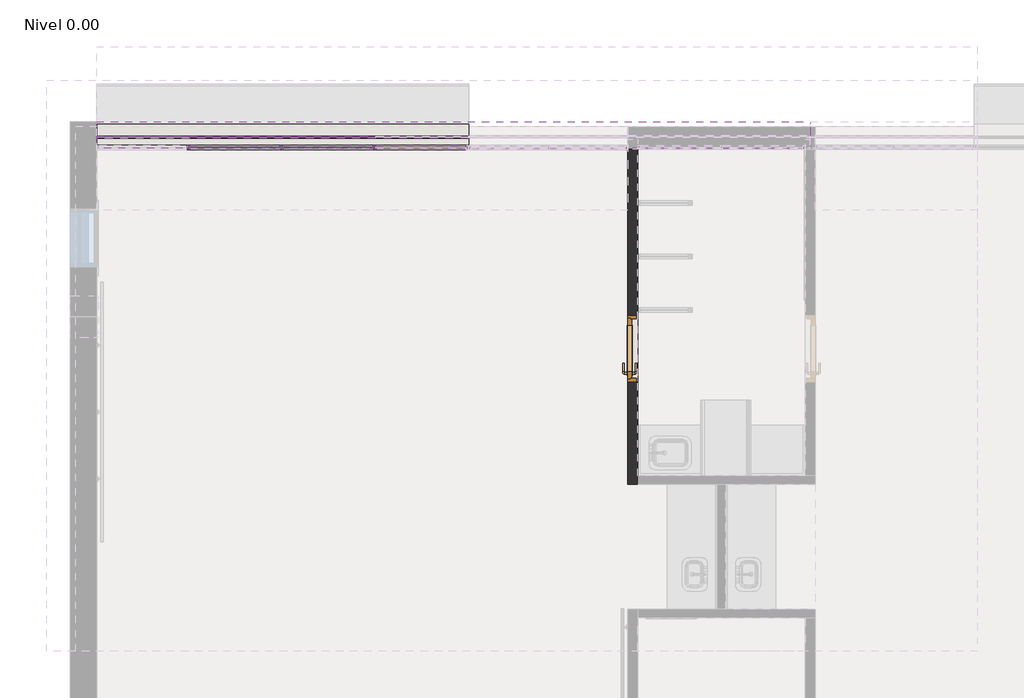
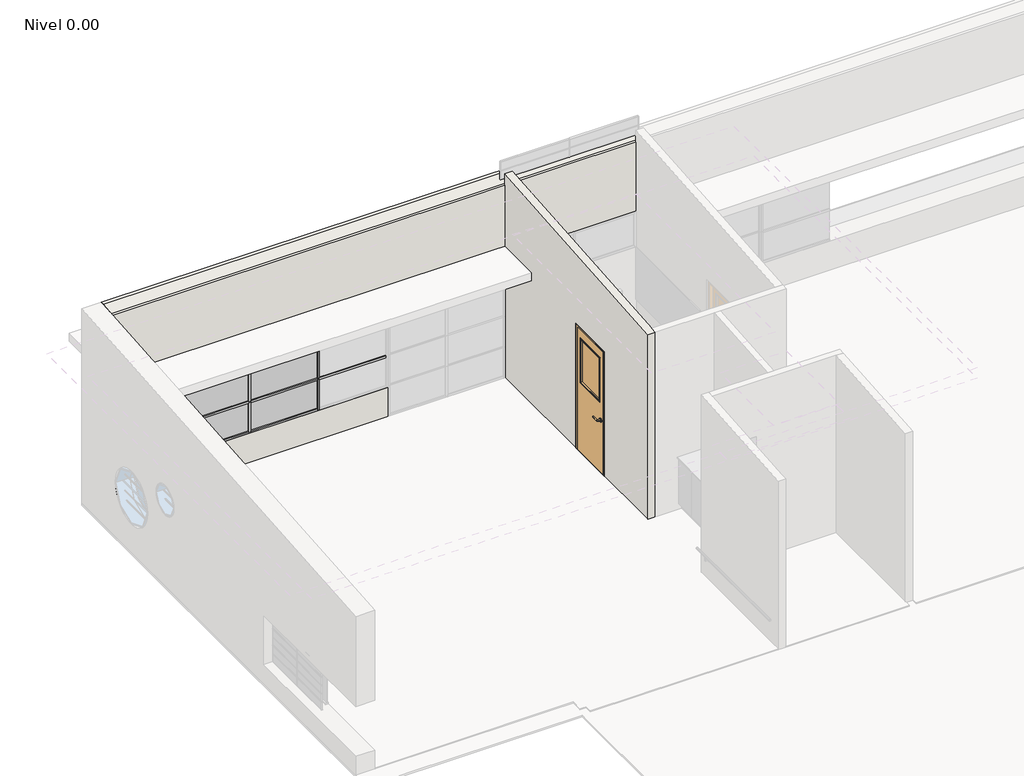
# One storey, part 13 of 27: 97 members, 28 plates, 3 walls, 1 door.
"""IFC4 building model written with IfcOpenShell, lengths in millimetres."""

from ifc_helpers import new_model, si_unit, frame, origin, place, context, project, spatial, polyline, outline, extrude, faceted_brep, transform, mapped, element, save
from components import puerta_c_01_c01_800x2100mm_f7d64b3f, circular_mullion_aad16848, circular_mullion_0549192e, l_corner_mullion_bb2ea94d, l_corner_mullion_decce2e3, rectangular_mullion_bbf09746, rectangular_mullion_c518a510, rectangular_mullion_22e3ac1e, rectangular_mullion_d0a98ee2, rectangular_mullion_bc77bd75, system_panel_6bc11d80, system_panel_4f7478dd, system_panel_glazed_86de827a, system_panel_glazed_6ff0c913

model = new_model("IFC4")

# Units and contexts
model_context = context("Model", 3, world=origin())
ifc_project = project(units=[si_unit("LENGTHUNIT", "METRE", prefix="MILLI")], contexts=[model_context])

# Site, building, storey
site = spatial("IfcSite", under=ifc_project)
building = spatial("IfcBuilding", under=site)
storey = spatial("IfcBuildingStorey", under=building, Name="Nivel 0.00", Elevation=0.0)

# Door
placement = place(None, origin())
puerta_c_01_c01_800x2100mm_shape = puerta_c_01_c01_800x2100mm_f7d64b3f(model_context)
element("IfcDoor", 1, ObjectType="PUERTA_C-01 : C01_800X2100mm", at=placement, inside=storey, context=model_context, shape_type="MappedRepresentation", body=[
    mapped(puerta_c_01_c01_800x2100mm_shape, transform((-9389.2191805, 4429.1682907, 0.0), x_axis=(0.0, 1.0, 0.0), y_axis=(-1.0, 0.0, 0.0), z_axis=(0.0, 0.0, 1.0))),
])

# Members
circular_mullion_shape = circular_mullion_aad16848(model_context)
element("IfcMember", 2, ObjectType="Circular Mullion : ARQ_HERR_16mm", at=placement, inside=storey, context=model_context, shape_type="MappedRepresentation", body=[
    mapped(circular_mullion_shape, transform((-12467.8377559, 6959.43912, 645.4545455), x_axis=(0.0, 0.0, 1.0), y_axis=(0.0, 1.0, 0.0), z_axis=(-1.0, 0.0, 0.0))),
])
element("IfcMember", 3, ObjectType="Circular Mullion : ARQ_HERR_16mm", at=placement, inside=storey, context=model_context, shape_type="MappedRepresentation", body=[
    mapped(circular_mullion_shape, transform((-13580.5250105, 6959.43912, 645.4545455), x_axis=(0.0, 0.0, 1.0), y_axis=(0.0, 1.0, 0.0), z_axis=(-1.0, 0.0, 0.0))),
])
element("IfcMember", 4, ObjectType="Circular Mullion : ARQ_HERR_16mm", at=placement, inside=storey, context=model_context, shape_type="MappedRepresentation", body=[
    mapped(circular_mullion_shape, transform((-14693.2122652, 6959.43912, 645.4545455), x_axis=(0.0, 0.0, 1.0), y_axis=(0.0, 1.0, 0.0), z_axis=(-1.0, 0.0, 0.0))),
])
element("IfcMember", 5, ObjectType="Circular Mullion : ARQ_HERR_16mm", at=placement, inside=storey, context=model_context, shape_type="MappedRepresentation", body=[
    mapped(circular_mullion_shape, transform((-12467.8377559, 6959.43912, 790.9090909), x_axis=(0.0, 0.0, 1.0), y_axis=(0.0, 1.0, 0.0), z_axis=(-1.0, 0.0, 0.0))),
])
element("IfcMember", 6, ObjectType="Circular Mullion : ARQ_HERR_16mm", at=placement, inside=storey, context=model_context, shape_type="MappedRepresentation", body=[
    mapped(circular_mullion_shape, transform((-13580.5250105, 6959.43912, 790.9090909), x_axis=(0.0, 0.0, 1.0), y_axis=(0.0, 1.0, 0.0), z_axis=(-1.0, 0.0, 0.0))),
])
element("IfcMember", 7, ObjectType="Circular Mullion : ARQ_HERR_16mm", at=placement, inside=storey, context=model_context, shape_type="MappedRepresentation", body=[
    mapped(circular_mullion_shape, transform((-14693.2122652, 6959.43912, 790.9090909), x_axis=(0.0, 0.0, 1.0), y_axis=(0.0, 1.0, 0.0), z_axis=(-1.0, 0.0, 0.0))),
])
element("IfcMember", 8, ObjectType="Circular Mullion : ARQ_HERR_16mm", at=placement, inside=storey, context=model_context, shape_type="MappedRepresentation", body=[
    mapped(circular_mullion_shape, transform((-12467.8377559, 6959.43912, 936.3636364), x_axis=(0.0, 0.0, 1.0), y_axis=(0.0, 1.0, 0.0), z_axis=(-1.0, 0.0, 0.0))),
])
element("IfcMember", 9, ObjectType="Circular Mullion : ARQ_HERR_16mm", at=placement, inside=storey, context=model_context, shape_type="MappedRepresentation", body=[
    mapped(circular_mullion_shape, transform((-13580.5250105, 6959.43912, 936.3636364), x_axis=(0.0, 0.0, 1.0), y_axis=(0.0, 1.0, 0.0), z_axis=(-1.0, 0.0, 0.0))),
])
element("IfcMember", 10, ObjectType="Circular Mullion : ARQ_HERR_16mm", at=placement, inside=storey, context=model_context, shape_type="MappedRepresentation", body=[
    mapped(circular_mullion_shape, transform((-14693.2122652, 6959.43912, 936.3636364), x_axis=(0.0, 0.0, 1.0), y_axis=(0.0, 1.0, 0.0), z_axis=(-1.0, 0.0, 0.0))),
])
element("IfcMember", 11, ObjectType="Circular Mullion : ARQ_HERR_16mm", at=placement, inside=storey, context=model_context, shape_type="MappedRepresentation", body=[
    mapped(circular_mullion_shape, transform((-12467.8377559, 6959.43912, 1081.8181818), x_axis=(0.0, 0.0, 1.0), y_axis=(0.0, 1.0, 0.0), z_axis=(-1.0, 0.0, 0.0))),
])
element("IfcMember", 12, ObjectType="Circular Mullion : ARQ_HERR_16mm", at=placement, inside=storey, context=model_context, shape_type="MappedRepresentation", body=[
    mapped(circular_mullion_shape, transform((-13580.5250105, 6959.43912, 1081.8181818), x_axis=(0.0, 0.0, 1.0), y_axis=(0.0, 1.0, 0.0), z_axis=(-1.0, 0.0, 0.0))),
])
element("IfcMember", 13, ObjectType="Circular Mullion : ARQ_HERR_16mm", at=placement, inside=storey, context=model_context, shape_type="MappedRepresentation", body=[
    mapped(circular_mullion_shape, transform((-14693.2122652, 6959.43912, 1081.8181818), x_axis=(0.0, 0.0, 1.0), y_axis=(0.0, 1.0, 0.0), z_axis=(-1.0, 0.0, 0.0))),
])
element("IfcMember", 14, ObjectType="Circular Mullion : ARQ_HERR_16mm", at=placement, inside=storey, context=model_context, shape_type="MappedRepresentation", body=[
    mapped(circular_mullion_shape, transform((-12467.8377559, 6959.43912, 1227.2727273), x_axis=(0.0, 0.0, 1.0), y_axis=(0.0, 1.0, 0.0), z_axis=(-1.0, 0.0, 0.0))),
])
element("IfcMember", 15, ObjectType="Circular Mullion : ARQ_HERR_16mm", at=placement, inside=storey, context=model_context, shape_type="MappedRepresentation", body=[
    mapped(circular_mullion_shape, transform((-13580.5250105, 6959.43912, 1227.2727273), x_axis=(0.0, 0.0, 1.0), y_axis=(0.0, 1.0, 0.0), z_axis=(-1.0, 0.0, 0.0))),
])
element("IfcMember", 16, ObjectType="Circular Mullion : ARQ_HERR_16mm", at=placement, inside=storey, context=model_context, shape_type="MappedRepresentation", body=[
    mapped(circular_mullion_shape, transform((-14693.2122652, 6959.43912, 1227.2727273), x_axis=(0.0, 0.0, 1.0), y_axis=(0.0, 1.0, 0.0), z_axis=(-1.0, 0.0, 0.0))),
])
element("IfcMember", 17, ObjectType="Circular Mullion : ARQ_HERR_16mm", at=placement, inside=storey, context=model_context, shape_type="MappedRepresentation", body=[
    mapped(circular_mullion_shape, transform((-12467.8377559, 6959.43912, 1372.7272727), x_axis=(0.0, 0.0, 1.0), y_axis=(0.0, 1.0, 0.0), z_axis=(-1.0, 0.0, 0.0))),
])
element("IfcMember", 18, ObjectType="Circular Mullion : ARQ_HERR_16mm", at=placement, inside=storey, context=model_context, shape_type="MappedRepresentation", body=[
    mapped(circular_mullion_shape, transform((-13580.5250105, 6959.43912, 1372.7272727), x_axis=(0.0, 0.0, 1.0), y_axis=(0.0, 1.0, 0.0), z_axis=(-1.0, 0.0, 0.0))),
])
element("IfcMember", 19, ObjectType="Circular Mullion : ARQ_HERR_16mm", at=placement, inside=storey, context=model_context, shape_type="MappedRepresentation", body=[
    mapped(circular_mullion_shape, transform((-14693.2122652, 6959.43912, 1372.7272727), x_axis=(0.0, 0.0, 1.0), y_axis=(0.0, 1.0, 0.0), z_axis=(-1.0, 0.0, 0.0))),
])
element("IfcMember", 20, ObjectType="Circular Mullion : ARQ_HERR_16mm", at=placement, inside=storey, context=model_context, shape_type="MappedRepresentation", body=[
    mapped(circular_mullion_shape, transform((-12467.8377559, 6959.43912, 1518.1818182), x_axis=(0.0, 0.0, 1.0), y_axis=(0.0, 1.0, 0.0), z_axis=(-1.0, 0.0, 0.0))),
])
element("IfcMember", 21, ObjectType="Circular Mullion : ARQ_HERR_16mm", at=placement, inside=storey, context=model_context, shape_type="MappedRepresentation", body=[
    mapped(circular_mullion_shape, transform((-13580.5250105, 6959.43912, 1518.1818182), x_axis=(0.0, 0.0, 1.0), y_axis=(0.0, 1.0, 0.0), z_axis=(-1.0, 0.0, 0.0))),
])
element("IfcMember", 22, ObjectType="Circular Mullion : ARQ_HERR_16mm", at=placement, inside=storey, context=model_context, shape_type="MappedRepresentation", body=[
    mapped(circular_mullion_shape, transform((-14693.2122652, 6959.43912, 1518.1818182), x_axis=(0.0, 0.0, 1.0), y_axis=(0.0, 1.0, 0.0), z_axis=(-1.0, 0.0, 0.0))),
])
element("IfcMember", 23, ObjectType="Circular Mullion : ARQ_HERR_16mm", at=placement, inside=storey, context=model_context, shape_type="MappedRepresentation", body=[
    mapped(circular_mullion_shape, transform((-12467.8377559, 6959.43912, 1663.6363636), x_axis=(0.0, 0.0, 1.0), y_axis=(0.0, 1.0, 0.0), z_axis=(-1.0, 0.0, 0.0))),
])
element("IfcMember", 24, ObjectType="Circular Mullion : ARQ_HERR_16mm", at=placement, inside=storey, context=model_context, shape_type="MappedRepresentation", body=[
    mapped(circular_mullion_shape, transform((-13580.5250105, 6959.43912, 1663.6363636), x_axis=(0.0, 0.0, 1.0), y_axis=(0.0, 1.0, 0.0), z_axis=(-1.0, 0.0, 0.0))),
])
element("IfcMember", 25, ObjectType="Circular Mullion : ARQ_HERR_16mm", at=placement, inside=storey, context=model_context, shape_type="MappedRepresentation", body=[
    mapped(circular_mullion_shape, transform((-14693.2122652, 6959.43912, 1663.6363636), x_axis=(0.0, 0.0, 1.0), y_axis=(0.0, 1.0, 0.0), z_axis=(-1.0, 0.0, 0.0))),
])
element("IfcMember", 26, ObjectType="Circular Mullion : ARQ_HERR_16mm", at=placement, inside=storey, context=model_context, shape_type="MappedRepresentation", body=[
    mapped(circular_mullion_shape, transform((-12467.8377559, 6959.43912, 1809.0909091), x_axis=(0.0, 0.0, 1.0), y_axis=(0.0, 1.0, 0.0), z_axis=(-1.0, 0.0, 0.0))),
])
element("IfcMember", 27, ObjectType="Circular Mullion : ARQ_HERR_16mm", at=placement, inside=storey, context=model_context, shape_type="MappedRepresentation", body=[
    mapped(circular_mullion_shape, transform((-13580.5250105, 6959.43912, 1809.0909091), x_axis=(0.0, 0.0, 1.0), y_axis=(0.0, 1.0, 0.0), z_axis=(-1.0, 0.0, 0.0))),
])
element("IfcMember", 28, ObjectType="Circular Mullion : ARQ_HERR_16mm", at=placement, inside=storey, context=model_context, shape_type="MappedRepresentation", body=[
    mapped(circular_mullion_shape, transform((-14693.2122652, 6959.43912, 1809.0909091), x_axis=(0.0, 0.0, 1.0), y_axis=(0.0, 1.0, 0.0), z_axis=(-1.0, 0.0, 0.0))),
])
element("IfcMember", 29, ObjectType="Circular Mullion : ARQ_HERR_16mm", at=placement, inside=storey, context=model_context, shape_type="MappedRepresentation", body=[
    mapped(circular_mullion_shape, transform((-12467.8377559, 6959.43912, 1954.5454545), x_axis=(0.0, 0.0, 1.0), y_axis=(0.0, 1.0, 0.0), z_axis=(-1.0, 0.0, 0.0))),
])
element("IfcMember", 30, ObjectType="Circular Mullion : ARQ_HERR_16mm", at=placement, inside=storey, context=model_context, shape_type="MappedRepresentation", body=[
    mapped(circular_mullion_shape, transform((-13580.5250105, 6959.43912, 1954.5454545), x_axis=(0.0, 0.0, 1.0), y_axis=(0.0, 1.0, 0.0), z_axis=(-1.0, 0.0, 0.0))),
])
element("IfcMember", 31, ObjectType="Circular Mullion : ARQ_HERR_16mm", at=placement, inside=storey, context=model_context, shape_type="MappedRepresentation", body=[
    mapped(circular_mullion_shape, transform((-14693.2122652, 6959.43912, 1954.5454545), x_axis=(0.0, 0.0, 1.0), y_axis=(0.0, 1.0, 0.0), z_axis=(-1.0, 0.0, 0.0))),
])
circular_mullion_2_shape = circular_mullion_0549192e(model_context)
element("IfcMember", 32, ObjectType="Circular Mullion : ARQ_HERR_16mm", at=placement, inside=storey, context=model_context, shape_type="MappedRepresentation", body=[
    mapped(circular_mullion_2_shape, transform((-15799.8995201, 6959.43912, 1081.8181818), x_axis=(0.0, 0.0, 1.0), y_axis=(0.0, 1.0, 0.0), z_axis=(-1.0, 0.0, 0.0))),
])
element("IfcMember", 33, ObjectType="Circular Mullion : ARQ_HERR_16mm", at=placement, inside=storey, context=model_context, shape_type="MappedRepresentation", body=[
    mapped(circular_mullion_2_shape, transform((-15799.8995201, 6959.43912, 1227.2727273), x_axis=(0.0, 0.0, 1.0), y_axis=(0.0, 1.0, 0.0), z_axis=(-1.0, 0.0, 0.0))),
])
element("IfcMember", 34, ObjectType="Circular Mullion : ARQ_HERR_16mm", at=placement, inside=storey, context=model_context, shape_type="MappedRepresentation", body=[
    mapped(circular_mullion_2_shape, transform((-15799.8995201, 6959.43912, 1372.7272727), x_axis=(0.0, 0.0, 1.0), y_axis=(0.0, 1.0, 0.0), z_axis=(-1.0, 0.0, 0.0))),
])
element("IfcMember", 35, ObjectType="Circular Mullion : ARQ_HERR_16mm", at=placement, inside=storey, context=model_context, shape_type="MappedRepresentation", body=[
    mapped(circular_mullion_2_shape, transform((-15799.8995201, 6959.43912, 1518.1818182), x_axis=(0.0, 0.0, 1.0), y_axis=(0.0, 1.0, 0.0), z_axis=(-1.0, 0.0, 0.0))),
])
element("IfcMember", 36, ObjectType="Circular Mullion : ARQ_HERR_16mm", at=placement, inside=storey, context=model_context, shape_type="MappedRepresentation", body=[
    mapped(circular_mullion_2_shape, transform((-15799.8995201, 6959.43912, 1663.6363636), x_axis=(0.0, 0.0, 1.0), y_axis=(0.0, 1.0, 0.0), z_axis=(-1.0, 0.0, 0.0))),
])
element("IfcMember", 37, ObjectType="Circular Mullion : ARQ_HERR_16mm", at=placement, inside=storey, context=model_context, shape_type="MappedRepresentation", body=[
    mapped(circular_mullion_2_shape, transform((-15799.8995201, 6959.43912, 1809.0909091), x_axis=(0.0, 0.0, 1.0), y_axis=(0.0, 1.0, 0.0), z_axis=(-1.0, 0.0, 0.0))),
])
element("IfcMember", 38, ObjectType="Circular Mullion : ARQ_HERR_16mm", at=placement, inside=storey, context=model_context, shape_type="MappedRepresentation", body=[
    mapped(circular_mullion_2_shape, transform((-15799.8995201, 6959.43912, 1954.5454545), x_axis=(0.0, 0.0, 1.0), y_axis=(0.0, 1.0, 0.0), z_axis=(-1.0, 0.0, 0.0))),
])
l_corner_mullion_shape = l_corner_mullion_bb2ea94d(model_context)
element("IfcMember", 39, ObjectType="L Corner Mullion : ARQ_HERR_15X6mm", at=placement, inside=storey, context=model_context, shape_type="MappedRepresentation", body=[
    mapped(l_corner_mullion_shape, transform((-12467.8377559, 6959.43912, 2100.0), x_axis=(0.0, 0.0, 1.0), y_axis=(0.0, 1.0, 0.0), z_axis=(-1.0, 0.0, 0.0))),
])
element("IfcMember", 40, ObjectType="L Corner Mullion : ARQ_HERR_15X6mm", at=placement, inside=storey, context=model_context, shape_type="MappedRepresentation", body=[
    mapped(l_corner_mullion_shape, transform((-13580.5250105, 6959.43912, 2100.0), x_axis=(0.0, 0.0, 1.0), y_axis=(0.0, 1.0, 0.0), z_axis=(-1.0, 0.0, 0.0))),
])
element("IfcMember", 41, ObjectType="L Corner Mullion : ARQ_HERR_15X6mm", at=placement, inside=storey, context=model_context, shape_type="MappedRepresentation", body=[
    mapped(l_corner_mullion_shape, transform((-14693.2122652, 6959.43912, 2100.0), x_axis=(0.0, 0.0, 1.0), y_axis=(0.0, 1.0, 0.0), z_axis=(-1.0, 0.0, 0.0))),
])
element("IfcMember", 42, ObjectType="L Corner Mullion : ARQ_HERR_15X6mm", at=placement, inside=storey, context=model_context, shape_type="MappedRepresentation", body=[
    mapped(l_corner_mullion_shape, transform((-12473.8377559, 6959.43912, 500.0), x_axis=(0.0, 0.0, -1.0), y_axis=(0.0, 1.0, 0.0), z_axis=(1.0, 0.0, 0.0))),
])
element("IfcMember", 43, ObjectType="L Corner Mullion : ARQ_HERR_15X6mm", at=placement, inside=storey, context=model_context, shape_type="MappedRepresentation", body=[
    mapped(l_corner_mullion_shape, transform((-13586.5250105, 6959.43912, 500.0), x_axis=(0.0, 0.0, -1.0), y_axis=(0.0, 1.0, 0.0), z_axis=(1.0, 0.0, 0.0))),
])
l_corner_mullion_2_shape = l_corner_mullion_decce2e3(model_context)
element("IfcMember", 44, ObjectType="L Corner Mullion : ARQ_HERR_15X6mm", at=placement, inside=storey, context=model_context, shape_type="MappedRepresentation", body=[
    mapped(l_corner_mullion_2_shape, transform((-14699.2122652, 6959.43912, 500.0), x_axis=(0.0, 0.0, -1.0), y_axis=(0.0, 1.0, 0.0), z_axis=(1.0, 0.0, 0.0))),
])
rectangular_mullion_shape = rectangular_mullion_bbf09746(model_context)
element("IfcMember", 45, ObjectType="Rectangular Mullion : ARQ_TV_MULL_50x30mm", at=placement, inside=storey, context=model_context, shape_type="MappedRepresentation", body=[
    mapped(rectangular_mullion_shape, transform((-12482.8377559, 6833.6242925, 500.0), x_axis=(-1.0, 0.0, 0.0), y_axis=(0.0, 1.0, 0.0), z_axis=(0.0, 0.0, -1.0))),
])
element("IfcMember", 46, ObjectType="Rectangular Mullion : ARQ_TV_MULL_50x30mm", at=placement, inside=storey, context=model_context, shape_type="MappedRepresentation", body=[
    mapped(rectangular_mullion_shape, transform((-13595.5250105, 6833.6242925, 500.0), x_axis=(-1.0, 0.0, 0.0), y_axis=(0.0, 1.0, 0.0), z_axis=(0.0, 0.0, -1.0))),
])
element("IfcMember", 47, ObjectType="Rectangular Mullion : ARQ_TV_MULL_50x30mm", at=placement, inside=storey, context=model_context, shape_type="MappedRepresentation", body=[
    mapped(rectangular_mullion_shape, transform((-14708.2122652, 6833.6242925, 500.0), x_axis=(-1.0, 0.0, 0.0), y_axis=(0.0, 1.0, 0.0), z_axis=(0.0, 0.0, -1.0))),
])
element("IfcMember", 48, ObjectType="Rectangular Mullion : ARQ_TV_MULL_50x30mm", at=placement, inside=storey, context=model_context, shape_type="MappedRepresentation", body=[
    mapped(rectangular_mullion_shape, transform((-12482.8377559, 6833.6242925, 1033.3333333), x_axis=(-1.0, 0.0, 0.0), y_axis=(0.0, 1.0, 0.0), z_axis=(0.0, 0.0, -1.0))),
])
element("IfcMember", 49, ObjectType="Rectangular Mullion : ARQ_TV_MULL_50x30mm", at=placement, inside=storey, context=model_context, shape_type="MappedRepresentation", body=[
    mapped(rectangular_mullion_shape, transform((-13595.5250105, 6833.6242925, 1033.3333333), x_axis=(-1.0, 0.0, 0.0), y_axis=(0.0, 1.0, 0.0), z_axis=(0.0, 0.0, -1.0))),
])
element("IfcMember", 50, ObjectType="Rectangular Mullion : ARQ_TV_MULL_50x30mm", at=placement, inside=storey, context=model_context, shape_type="MappedRepresentation", body=[
    mapped(rectangular_mullion_shape, transform((-14708.2122652, 6833.6242925, 1033.3333333), x_axis=(-1.0, 0.0, 0.0), y_axis=(0.0, 1.0, 0.0), z_axis=(0.0, 0.0, -1.0))),
])
element("IfcMember", 51, ObjectType="Rectangular Mullion : ARQ_TV_MULL_50x30mm", at=placement, inside=storey, context=model_context, shape_type="MappedRepresentation", body=[
    mapped(rectangular_mullion_shape, transform((-12482.8377559, 6833.6242925, 1566.6666667), x_axis=(-1.0, 0.0, 0.0), y_axis=(0.0, 1.0, 0.0), z_axis=(0.0, 0.0, -1.0))),
])
element("IfcMember", 52, ObjectType="Rectangular Mullion : ARQ_TV_MULL_50x30mm", at=placement, inside=storey, context=model_context, shape_type="MappedRepresentation", body=[
    mapped(rectangular_mullion_shape, transform((-13595.5250105, 6833.6242925, 1566.6666667), x_axis=(-1.0, 0.0, 0.0), y_axis=(0.0, 1.0, 0.0), z_axis=(0.0, 0.0, -1.0))),
])
element("IfcMember", 53, ObjectType="Rectangular Mullion : ARQ_TV_MULL_50x30mm", at=placement, inside=storey, context=model_context, shape_type="MappedRepresentation", body=[
    mapped(rectangular_mullion_shape, transform((-14708.2122652, 6833.6242925, 1566.6666667), x_axis=(-1.0, 0.0, 0.0), y_axis=(0.0, 1.0, 0.0), z_axis=(0.0, 0.0, -1.0))),
])
rectangular_mullion_2_shape = rectangular_mullion_c518a510(model_context)
element("IfcMember", 54, ObjectType="Rectangular Mullion : ARQ_TV_MULL_50x30mm", at=placement, inside=storey, context=model_context, shape_type="MappedRepresentation", body=[
    mapped(rectangular_mullion_2_shape, transform((-12467.8377559, 6833.6242925, 2100.0), x_axis=(0.0, 0.0, 1.0), y_axis=(0.0, 1.0, 0.0), z_axis=(-1.0, 0.0, 0.0))),
])
element("IfcMember", 55, ObjectType="Rectangular Mullion : ARQ_TV_MULL_50x30mm", at=placement, inside=storey, context=model_context, shape_type="MappedRepresentation", body=[
    mapped(rectangular_mullion_2_shape, transform((-13580.5250105, 6833.6242925, 2100.0), x_axis=(0.0, 0.0, 1.0), y_axis=(0.0, 1.0, 0.0), z_axis=(-1.0, 0.0, 0.0))),
])
element("IfcMember", 56, ObjectType="Rectangular Mullion : ARQ_TV_MULL_50x30mm", at=placement, inside=storey, context=model_context, shape_type="MappedRepresentation", body=[
    mapped(rectangular_mullion_2_shape, transform((-14693.2122652, 6833.6242925, 2100.0), x_axis=(0.0, 0.0, 1.0), y_axis=(0.0, 1.0, 0.0), z_axis=(-1.0, 0.0, 0.0))),
])
element("IfcMember", 57, ObjectType="Rectangular Mullion : ARQ_TV_MULL_50x30mm", at=placement, inside=storey, context=model_context, shape_type="MappedRepresentation", body=[
    mapped(rectangular_mullion_2_shape, transform((-12497.8377559, 6833.6242925, 500.0), x_axis=(0.0, 0.0, -1.0), y_axis=(0.0, 1.0, 0.0), z_axis=(1.0, 0.0, 0.0))),
])
element("IfcMember", 58, ObjectType="Rectangular Mullion : ARQ_TV_MULL_50x30mm", at=placement, inside=storey, context=model_context, shape_type="MappedRepresentation", body=[
    mapped(rectangular_mullion_2_shape, transform((-13610.5250105, 6833.6242925, 500.0), x_axis=(0.0, 0.0, -1.0), y_axis=(0.0, 1.0, 0.0), z_axis=(1.0, 0.0, 0.0))),
])
rectangular_mullion_3_shape = rectangular_mullion_22e3ac1e(model_context)
element("IfcMember", 59, ObjectType="Rectangular Mullion : ARQ_TV_MULL_50x30mm", at=placement, inside=storey, context=model_context, shape_type="MappedRepresentation", body=[
    mapped(rectangular_mullion_3_shape, transform((-14723.2122652, 6833.6242925, 500.0), x_axis=(0.0, 0.0, -1.0), y_axis=(0.0, 1.0, 0.0), z_axis=(1.0, 0.0, 0.0))),
])
rectangular_mullion_4_shape = rectangular_mullion_d0a98ee2(model_context)
element("IfcMember", 60, ObjectType="Rectangular Mullion : ARQ_TV_MULL_50x30mm", at=placement, inside=storey, context=model_context, shape_type="MappedRepresentation", body=[
    mapped(rectangular_mullion_4_shape, transform((-12467.8377559, 6833.6242925, 1033.3333333), x_axis=(0.0, 0.0, 1.0), y_axis=(0.0, 1.0, 0.0), z_axis=(-1.0, 0.0, 0.0))),
])
element("IfcMember", 61, ObjectType="Rectangular Mullion : ARQ_TV_MULL_50x30mm", at=placement, inside=storey, context=model_context, shape_type="MappedRepresentation", body=[
    mapped(rectangular_mullion_4_shape, transform((-13580.5250105, 6833.6242925, 1033.3333333), x_axis=(0.0, 0.0, 1.0), y_axis=(0.0, 1.0, 0.0), z_axis=(-1.0, 0.0, 0.0))),
])
element("IfcMember", 62, ObjectType="Rectangular Mullion : ARQ_TV_MULL_50x30mm", at=placement, inside=storey, context=model_context, shape_type="MappedRepresentation", body=[
    mapped(rectangular_mullion_4_shape, transform((-14693.2122652, 6833.6242925, 1033.3333333), x_axis=(0.0, 0.0, 1.0), y_axis=(0.0, 1.0, 0.0), z_axis=(-1.0, 0.0, 0.0))),
])
element("IfcMember", 63, ObjectType="Rectangular Mullion : ARQ_TV_MULL_50x30mm", at=placement, inside=storey, context=model_context, shape_type="MappedRepresentation", body=[
    mapped(rectangular_mullion_4_shape, transform((-12467.8377559, 6833.6242925, 1566.6666667), x_axis=(0.0, 0.0, 1.0), y_axis=(0.0, 1.0, 0.0), z_axis=(-1.0, 0.0, 0.0))),
])
element("IfcMember", 64, ObjectType="Rectangular Mullion : ARQ_TV_MULL_50x30mm", at=placement, inside=storey, context=model_context, shape_type="MappedRepresentation", body=[
    mapped(rectangular_mullion_4_shape, transform((-13580.5250105, 6833.6242925, 1566.6666667), x_axis=(0.0, 0.0, 1.0), y_axis=(0.0, 1.0, 0.0), z_axis=(-1.0, 0.0, 0.0))),
])
element("IfcMember", 65, ObjectType="Rectangular Mullion : ARQ_TV_MULL_50x30mm", at=placement, inside=storey, context=model_context, shape_type="MappedRepresentation", body=[
    mapped(rectangular_mullion_4_shape, transform((-14693.2122652, 6833.6242925, 1566.6666667), x_axis=(0.0, 0.0, 1.0), y_axis=(0.0, 1.0, 0.0), z_axis=(-1.0, 0.0, 0.0))),
])
rectangular_mullion_5_shape = rectangular_mullion_bc77bd75(model_context)
element("IfcMember", 66, ObjectType="Rectangular Mullion : ARQ_HERR_15X6mm", at=placement, inside=storey, context=model_context, shape_type="MappedRepresentation", body=[
    mapped(rectangular_mullion_5_shape, transform((-12470.8377559, 6959.43912, 500.0), x_axis=(-1.0, 0.0, 0.0), y_axis=(0.0, 1.0, 0.0), z_axis=(0.0, 0.0, -1.0))),
])
element("IfcMember", 67, ObjectType="Rectangular Mullion : ARQ_HERR_15X6mm", at=placement, inside=storey, context=model_context, shape_type="MappedRepresentation", body=[
    mapped(rectangular_mullion_5_shape, transform((-13583.5250105, 6959.43912, 500.0), x_axis=(-1.0, 0.0, 0.0), y_axis=(0.0, 1.0, 0.0), z_axis=(0.0, 0.0, -1.0))),
])
element("IfcMember", 68, ObjectType="Rectangular Mullion : ARQ_HERR_15X6mm", at=placement, inside=storey, context=model_context, shape_type="MappedRepresentation", body=[
    mapped(rectangular_mullion_5_shape, transform((-14696.2122652, 6959.43912, 500.0), x_axis=(-1.0, 0.0, 0.0), y_axis=(0.0, 1.0, 0.0), z_axis=(0.0, 0.0, -1.0))),
])
element("IfcMember", 69, ObjectType="Rectangular Mullion : ARQ_HERR_15X6mm", at=placement, inside=storey, context=model_context, shape_type="MappedRepresentation", body=[
    mapped(rectangular_mullion_5_shape, transform((-12470.8377559, 6959.43912, 645.4545455), x_axis=(-1.0, 0.0, 0.0), y_axis=(0.0, 1.0, 0.0), z_axis=(0.0, 0.0, -1.0))),
])
element("IfcMember", 70, ObjectType="Rectangular Mullion : ARQ_HERR_15X6mm", at=placement, inside=storey, context=model_context, shape_type="MappedRepresentation", body=[
    mapped(rectangular_mullion_5_shape, transform((-13583.5250105, 6959.43912, 645.4545455), x_axis=(-1.0, 0.0, 0.0), y_axis=(0.0, 1.0, 0.0), z_axis=(0.0, 0.0, -1.0))),
])
element("IfcMember", 71, ObjectType="Rectangular Mullion : ARQ_HERR_15X6mm", at=placement, inside=storey, context=model_context, shape_type="MappedRepresentation", body=[
    mapped(rectangular_mullion_5_shape, transform((-14696.2122652, 6959.43912, 645.4545455), x_axis=(-1.0, 0.0, 0.0), y_axis=(0.0, 1.0, 0.0), z_axis=(0.0, 0.0, -1.0))),
])
element("IfcMember", 72, ObjectType="Rectangular Mullion : ARQ_HERR_15X6mm", at=placement, inside=storey, context=model_context, shape_type="MappedRepresentation", body=[
    mapped(rectangular_mullion_5_shape, transform((-12470.8377559, 6959.43912, 790.9090909), x_axis=(-1.0, 0.0, 0.0), y_axis=(0.0, 1.0, 0.0), z_axis=(0.0, 0.0, -1.0))),
])
element("IfcMember", 73, ObjectType="Rectangular Mullion : ARQ_HERR_15X6mm", at=placement, inside=storey, context=model_context, shape_type="MappedRepresentation", body=[
    mapped(rectangular_mullion_5_shape, transform((-13583.5250105, 6959.43912, 790.9090909), x_axis=(-1.0, 0.0, 0.0), y_axis=(0.0, 1.0, 0.0), z_axis=(0.0, 0.0, -1.0))),
])
element("IfcMember", 74, ObjectType="Rectangular Mullion : ARQ_HERR_15X6mm", at=placement, inside=storey, context=model_context, shape_type="MappedRepresentation", body=[
    mapped(rectangular_mullion_5_shape, transform((-14696.2122652, 6959.43912, 790.9090909), x_axis=(-1.0, 0.0, 0.0), y_axis=(0.0, 1.0, 0.0), z_axis=(0.0, 0.0, -1.0))),
])
element("IfcMember", 75, ObjectType="Rectangular Mullion : ARQ_HERR_15X6mm", at=placement, inside=storey, context=model_context, shape_type="MappedRepresentation", body=[
    mapped(rectangular_mullion_5_shape, transform((-12470.8377559, 6959.43912, 936.3636364), x_axis=(-1.0, 0.0, 0.0), y_axis=(0.0, 1.0, 0.0), z_axis=(0.0, 0.0, -1.0))),
])
element("IfcMember", 76, ObjectType="Rectangular Mullion : ARQ_HERR_15X6mm", at=placement, inside=storey, context=model_context, shape_type="MappedRepresentation", body=[
    mapped(rectangular_mullion_5_shape, transform((-13583.5250105, 6959.43912, 936.3636364), x_axis=(-1.0, 0.0, 0.0), y_axis=(0.0, 1.0, 0.0), z_axis=(0.0, 0.0, -1.0))),
])
element("IfcMember", 77, ObjectType="Rectangular Mullion : ARQ_HERR_15X6mm", at=placement, inside=storey, context=model_context, shape_type="MappedRepresentation", body=[
    mapped(rectangular_mullion_5_shape, transform((-14696.2122652, 6959.43912, 936.3636364), x_axis=(-1.0, 0.0, 0.0), y_axis=(0.0, 1.0, 0.0), z_axis=(0.0, 0.0, -1.0))),
])
element("IfcMember", 78, ObjectType="Rectangular Mullion : ARQ_HERR_15X6mm", at=placement, inside=storey, context=model_context, shape_type="MappedRepresentation", body=[
    mapped(rectangular_mullion_5_shape, transform((-12470.8377559, 6959.43912, 1081.8181818), x_axis=(-1.0, 0.0, 0.0), y_axis=(0.0, 1.0, 0.0), z_axis=(0.0, 0.0, -1.0))),
])
element("IfcMember", 79, ObjectType="Rectangular Mullion : ARQ_HERR_15X6mm", at=placement, inside=storey, context=model_context, shape_type="MappedRepresentation", body=[
    mapped(rectangular_mullion_5_shape, transform((-13583.5250105, 6959.43912, 1081.8181818), x_axis=(-1.0, 0.0, 0.0), y_axis=(0.0, 1.0, 0.0), z_axis=(0.0, 0.0, -1.0))),
])
element("IfcMember", 80, ObjectType="Rectangular Mullion : ARQ_HERR_15X6mm", at=placement, inside=storey, context=model_context, shape_type="MappedRepresentation", body=[
    mapped(rectangular_mullion_5_shape, transform((-14696.2122652, 6959.43912, 1081.8181818), x_axis=(-1.0, 0.0, 0.0), y_axis=(0.0, 1.0, 0.0), z_axis=(0.0, 0.0, -1.0))),
])
element("IfcMember", 81, ObjectType="Rectangular Mullion : ARQ_HERR_15X6mm", at=placement, inside=storey, context=model_context, shape_type="MappedRepresentation", body=[
    mapped(rectangular_mullion_5_shape, transform((-12470.8377559, 6959.43912, 1227.2727273), x_axis=(-1.0, 0.0, 0.0), y_axis=(0.0, 1.0, 0.0), z_axis=(0.0, 0.0, -1.0))),
])
element("IfcMember", 82, ObjectType="Rectangular Mullion : ARQ_HERR_15X6mm", at=placement, inside=storey, context=model_context, shape_type="MappedRepresentation", body=[
    mapped(rectangular_mullion_5_shape, transform((-13583.5250105, 6959.43912, 1227.2727273), x_axis=(-1.0, 0.0, 0.0), y_axis=(0.0, 1.0, 0.0), z_axis=(0.0, 0.0, -1.0))),
])
element("IfcMember", 83, ObjectType="Rectangular Mullion : ARQ_HERR_15X6mm", at=placement, inside=storey, context=model_context, shape_type="MappedRepresentation", body=[
    mapped(rectangular_mullion_5_shape, transform((-14696.2122652, 6959.43912, 1227.2727273), x_axis=(-1.0, 0.0, 0.0), y_axis=(0.0, 1.0, 0.0), z_axis=(0.0, 0.0, -1.0))),
])
element("IfcMember", 84, ObjectType="Rectangular Mullion : ARQ_HERR_15X6mm", at=placement, inside=storey, context=model_context, shape_type="MappedRepresentation", body=[
    mapped(rectangular_mullion_5_shape, transform((-12470.8377559, 6959.43912, 1372.7272727), x_axis=(-1.0, 0.0, 0.0), y_axis=(0.0, 1.0, 0.0), z_axis=(0.0, 0.0, -1.0))),
])
element("IfcMember", 85, ObjectType="Rectangular Mullion : ARQ_HERR_15X6mm", at=placement, inside=storey, context=model_context, shape_type="MappedRepresentation", body=[
    mapped(rectangular_mullion_5_shape, transform((-13583.5250105, 6959.43912, 1372.7272727), x_axis=(-1.0, 0.0, 0.0), y_axis=(0.0, 1.0, 0.0), z_axis=(0.0, 0.0, -1.0))),
])
element("IfcMember", 86, ObjectType="Rectangular Mullion : ARQ_HERR_15X6mm", at=placement, inside=storey, context=model_context, shape_type="MappedRepresentation", body=[
    mapped(rectangular_mullion_5_shape, transform((-14696.2122652, 6959.43912, 1372.7272727), x_axis=(-1.0, 0.0, 0.0), y_axis=(0.0, 1.0, 0.0), z_axis=(0.0, 0.0, -1.0))),
])
element("IfcMember", 87, ObjectType="Rectangular Mullion : ARQ_HERR_15X6mm", at=placement, inside=storey, context=model_context, shape_type="MappedRepresentation", body=[
    mapped(rectangular_mullion_5_shape, transform((-12470.8377559, 6959.43912, 1518.1818182), x_axis=(-1.0, 0.0, 0.0), y_axis=(0.0, 1.0, 0.0), z_axis=(0.0, 0.0, -1.0))),
])
element("IfcMember", 88, ObjectType="Rectangular Mullion : ARQ_HERR_15X6mm", at=placement, inside=storey, context=model_context, shape_type="MappedRepresentation", body=[
    mapped(rectangular_mullion_5_shape, transform((-13583.5250105, 6959.43912, 1518.1818182), x_axis=(-1.0, 0.0, 0.0), y_axis=(0.0, 1.0, 0.0), z_axis=(0.0, 0.0, -1.0))),
])
element("IfcMember", 89, ObjectType="Rectangular Mullion : ARQ_HERR_15X6mm", at=placement, inside=storey, context=model_context, shape_type="MappedRepresentation", body=[
    mapped(rectangular_mullion_5_shape, transform((-14696.2122652, 6959.43912, 1518.1818182), x_axis=(-1.0, 0.0, 0.0), y_axis=(0.0, 1.0, 0.0), z_axis=(0.0, 0.0, -1.0))),
])
element("IfcMember", 90, ObjectType="Rectangular Mullion : ARQ_HERR_15X6mm", at=placement, inside=storey, context=model_context, shape_type="MappedRepresentation", body=[
    mapped(rectangular_mullion_5_shape, transform((-12470.8377559, 6959.43912, 1663.6363636), x_axis=(-1.0, 0.0, 0.0), y_axis=(0.0, 1.0, 0.0), z_axis=(0.0, 0.0, -1.0))),
])
element("IfcMember", 91, ObjectType="Rectangular Mullion : ARQ_HERR_15X6mm", at=placement, inside=storey, context=model_context, shape_type="MappedRepresentation", body=[
    mapped(rectangular_mullion_5_shape, transform((-13583.5250105, 6959.43912, 1663.6363636), x_axis=(-1.0, 0.0, 0.0), y_axis=(0.0, 1.0, 0.0), z_axis=(0.0, 0.0, -1.0))),
])
element("IfcMember", 92, ObjectType="Rectangular Mullion : ARQ_HERR_15X6mm", at=placement, inside=storey, context=model_context, shape_type="MappedRepresentation", body=[
    mapped(rectangular_mullion_5_shape, transform((-14696.2122652, 6959.43912, 1663.6363636), x_axis=(-1.0, 0.0, 0.0), y_axis=(0.0, 1.0, 0.0), z_axis=(0.0, 0.0, -1.0))),
])
element("IfcMember", 93, ObjectType="Rectangular Mullion : ARQ_HERR_15X6mm", at=placement, inside=storey, context=model_context, shape_type="MappedRepresentation", body=[
    mapped(rectangular_mullion_5_shape, transform((-12470.8377559, 6959.43912, 1809.0909091), x_axis=(-1.0, 0.0, 0.0), y_axis=(0.0, 1.0, 0.0), z_axis=(0.0, 0.0, -1.0))),
])
element("IfcMember", 94, ObjectType="Rectangular Mullion : ARQ_HERR_15X6mm", at=placement, inside=storey, context=model_context, shape_type="MappedRepresentation", body=[
    mapped(rectangular_mullion_5_shape, transform((-13583.5250105, 6959.43912, 1809.0909091), x_axis=(-1.0, 0.0, 0.0), y_axis=(0.0, 1.0, 0.0), z_axis=(0.0, 0.0, -1.0))),
])
element("IfcMember", 95, ObjectType="Rectangular Mullion : ARQ_HERR_15X6mm", at=placement, inside=storey, context=model_context, shape_type="MappedRepresentation", body=[
    mapped(rectangular_mullion_5_shape, transform((-14696.2122652, 6959.43912, 1809.0909091), x_axis=(-1.0, 0.0, 0.0), y_axis=(0.0, 1.0, 0.0), z_axis=(0.0, 0.0, -1.0))),
])
element("IfcMember", 96, ObjectType="Rectangular Mullion : ARQ_HERR_15X6mm", at=placement, inside=storey, context=model_context, shape_type="MappedRepresentation", body=[
    mapped(rectangular_mullion_5_shape, transform((-12470.8377559, 6959.43912, 1954.5454545), x_axis=(-1.0, 0.0, 0.0), y_axis=(0.0, 1.0, 0.0), z_axis=(0.0, 0.0, -1.0))),
])
element("IfcMember", 97, ObjectType="Rectangular Mullion : ARQ_HERR_15X6mm", at=placement, inside=storey, context=model_context, shape_type="MappedRepresentation", body=[
    mapped(rectangular_mullion_5_shape, transform((-13583.5250105, 6959.43912, 1954.5454545), x_axis=(-1.0, 0.0, 0.0), y_axis=(0.0, 1.0, 0.0), z_axis=(0.0, 0.0, -1.0))),
])
element("IfcMember", 98, ObjectType="Rectangular Mullion : ARQ_HERR_15X6mm", at=placement, inside=storey, context=model_context, shape_type="MappedRepresentation", body=[
    mapped(rectangular_mullion_5_shape, transform((-14696.2122652, 6959.43912, 1954.5454545), x_axis=(-1.0, 0.0, 0.0), y_axis=(0.0, 1.0, 0.0), z_axis=(0.0, 0.0, -1.0))),
])

# Plates
system_panel_shape = system_panel_6bc11d80(model_context)
element("IfcPlate", 99, ObjectType="System Panel : VACÍO", at=placement, inside=storey, context=model_context, shape_type="MappedRepresentation", body=[
    mapped(system_panel_shape, transform((-13027.1813832, 6959.43912, 506.0), x_axis=(-1.0, 0.0, 0.0), y_axis=(0.0, -1.0, 0.0), z_axis=(0.0, 0.0, 1.0))),
])
element("IfcPlate", 100, ObjectType="System Panel : VACÍO", at=placement, inside=storey, context=model_context, shape_type="MappedRepresentation", body=[
    mapped(system_panel_shape, transform((-14139.8686379, 6959.43912, 506.0), x_axis=(-1.0, 0.0, 0.0), y_axis=(0.0, -1.0, 0.0), z_axis=(0.0, 0.0, 1.0))),
])
element("IfcPlate", 101, ObjectType="System Panel : VACÍO", at=placement, inside=storey, context=model_context, shape_type="MappedRepresentation", body=[
    mapped(system_panel_shape, transform((-13027.1813832, 6959.43912, 1962.5454545), x_axis=(-1.0, 0.0, 0.0), y_axis=(0.0, -1.0, 0.0), z_axis=(0.0, 0.0, 1.0))),
])
element("IfcPlate", 102, ObjectType="System Panel : VACÍO", at=placement, inside=storey, context=model_context, shape_type="MappedRepresentation", body=[
    mapped(system_panel_shape, transform((-14139.8686379, 6959.43912, 1962.5454545), x_axis=(-1.0, 0.0, 0.0), y_axis=(0.0, -1.0, 0.0), z_axis=(0.0, 0.0, 1.0))),
])
system_panel_2_shape = system_panel_4f7478dd(model_context)
element("IfcPlate", 103, ObjectType="System Panel : VACÍO", at=placement, inside=storey, context=model_context, shape_type="MappedRepresentation", body=[
    mapped(system_panel_2_shape, transform((-13027.1813832, 6959.43912, 653.4545455), x_axis=(-1.0, 0.0, 0.0), y_axis=(0.0, -1.0, 0.0), z_axis=(0.0, 0.0, 1.0))),
])
element("IfcPlate", 104, ObjectType="System Panel : VACÍO", at=placement, inside=storey, context=model_context, shape_type="MappedRepresentation", body=[
    mapped(system_panel_2_shape, transform((-14139.8686379, 6959.43912, 653.4545455), x_axis=(-1.0, 0.0, 0.0), y_axis=(0.0, -1.0, 0.0), z_axis=(0.0, 0.0, 1.0))),
])
element("IfcPlate", 105, ObjectType="System Panel : VACÍO", at=placement, inside=storey, context=model_context, shape_type="MappedRepresentation", body=[
    mapped(system_panel_2_shape, transform((-13027.1813832, 6959.43912, 798.9090909), x_axis=(-1.0, 0.0, 0.0), y_axis=(0.0, -1.0, 0.0), z_axis=(0.0, 0.0, 1.0))),
])
element("IfcPlate", 106, ObjectType="System Panel : VACÍO", at=placement, inside=storey, context=model_context, shape_type="MappedRepresentation", body=[
    mapped(system_panel_2_shape, transform((-14139.8686379, 6959.43912, 798.9090909), x_axis=(-1.0, 0.0, 0.0), y_axis=(0.0, -1.0, 0.0), z_axis=(0.0, 0.0, 1.0))),
])
element("IfcPlate", 107, ObjectType="System Panel : VACÍO", at=placement, inside=storey, context=model_context, shape_type="MappedRepresentation", body=[
    mapped(system_panel_2_shape, transform((-13027.1813832, 6959.43912, 944.3636364), x_axis=(-1.0, 0.0, 0.0), y_axis=(0.0, -1.0, 0.0), z_axis=(0.0, 0.0, 1.0))),
])
element("IfcPlate", 108, ObjectType="System Panel : VACÍO", at=placement, inside=storey, context=model_context, shape_type="MappedRepresentation", body=[
    mapped(system_panel_2_shape, transform((-14139.8686379, 6959.43912, 944.3636364), x_axis=(-1.0, 0.0, 0.0), y_axis=(0.0, -1.0, 0.0), z_axis=(0.0, 0.0, 1.0))),
])
element("IfcPlate", 109, ObjectType="System Panel : VACÍO", at=placement, inside=storey, context=model_context, shape_type="MappedRepresentation", body=[
    mapped(system_panel_2_shape, transform((-13027.1813832, 6959.43912, 1089.8181818), x_axis=(-1.0, 0.0, 0.0), y_axis=(0.0, -1.0, 0.0), z_axis=(0.0, 0.0, 1.0))),
])
element("IfcPlate", 110, ObjectType="System Panel : VACÍO", at=placement, inside=storey, context=model_context, shape_type="MappedRepresentation", body=[
    mapped(system_panel_2_shape, transform((-14139.8686379, 6959.43912, 1089.8181818), x_axis=(-1.0, 0.0, 0.0), y_axis=(0.0, -1.0, 0.0), z_axis=(0.0, 0.0, 1.0))),
])
element("IfcPlate", 111, ObjectType="System Panel : VACÍO", at=placement, inside=storey, context=model_context, shape_type="MappedRepresentation", body=[
    mapped(system_panel_2_shape, transform((-13027.1813832, 6959.43912, 1235.2727273), x_axis=(-1.0, 0.0, 0.0), y_axis=(0.0, -1.0, 0.0), z_axis=(0.0, 0.0, 1.0))),
])
element("IfcPlate", 112, ObjectType="System Panel : VACÍO", at=placement, inside=storey, context=model_context, shape_type="MappedRepresentation", body=[
    mapped(system_panel_2_shape, transform((-14139.8686379, 6959.43912, 1235.2727273), x_axis=(-1.0, 0.0, 0.0), y_axis=(0.0, -1.0, 0.0), z_axis=(0.0, 0.0, 1.0))),
])
element("IfcPlate", 113, ObjectType="System Panel : VACÍO", at=placement, inside=storey, context=model_context, shape_type="MappedRepresentation", body=[
    mapped(system_panel_2_shape, transform((-13027.1813832, 6959.43912, 1380.7272727), x_axis=(-1.0, 0.0, 0.0), y_axis=(0.0, -1.0, 0.0), z_axis=(0.0, 0.0, 1.0))),
])
element("IfcPlate", 114, ObjectType="System Panel : VACÍO", at=placement, inside=storey, context=model_context, shape_type="MappedRepresentation", body=[
    mapped(system_panel_2_shape, transform((-14139.8686379, 6959.43912, 1380.7272727), x_axis=(-1.0, 0.0, 0.0), y_axis=(0.0, -1.0, 0.0), z_axis=(0.0, 0.0, 1.0))),
])
element("IfcPlate", 115, ObjectType="System Panel : VACÍO", at=placement, inside=storey, context=model_context, shape_type="MappedRepresentation", body=[
    mapped(system_panel_2_shape, transform((-13027.1813832, 6959.43912, 1526.1818182), x_axis=(-1.0, 0.0, 0.0), y_axis=(0.0, -1.0, 0.0), z_axis=(0.0, 0.0, 1.0))),
])
element("IfcPlate", 116, ObjectType="System Panel : VACÍO", at=placement, inside=storey, context=model_context, shape_type="MappedRepresentation", body=[
    mapped(system_panel_2_shape, transform((-14139.8686379, 6959.43912, 1526.1818182), x_axis=(-1.0, 0.0, 0.0), y_axis=(0.0, -1.0, 0.0), z_axis=(0.0, 0.0, 1.0))),
])
element("IfcPlate", 117, ObjectType="System Panel : VACÍO", at=placement, inside=storey, context=model_context, shape_type="MappedRepresentation", body=[
    mapped(system_panel_2_shape, transform((-13027.1813832, 6959.43912, 1671.6363636), x_axis=(-1.0, 0.0, 0.0), y_axis=(0.0, -1.0, 0.0), z_axis=(0.0, 0.0, 1.0))),
])
element("IfcPlate", 118, ObjectType="System Panel : VACÍO", at=placement, inside=storey, context=model_context, shape_type="MappedRepresentation", body=[
    mapped(system_panel_2_shape, transform((-14139.8686379, 6959.43912, 1671.6363636), x_axis=(-1.0, 0.0, 0.0), y_axis=(0.0, -1.0, 0.0), z_axis=(0.0, 0.0, 1.0))),
])
element("IfcPlate", 119, ObjectType="System Panel : VACÍO", at=placement, inside=storey, context=model_context, shape_type="MappedRepresentation", body=[
    mapped(system_panel_2_shape, transform((-13027.1813832, 6959.43912, 1817.0909091), x_axis=(-1.0, 0.0, 0.0), y_axis=(0.0, -1.0, 0.0), z_axis=(0.0, 0.0, 1.0))),
])
element("IfcPlate", 120, ObjectType="System Panel : VACÍO", at=placement, inside=storey, context=model_context, shape_type="MappedRepresentation", body=[
    mapped(system_panel_2_shape, transform((-14139.8686379, 6959.43912, 1817.0909091), x_axis=(-1.0, 0.0, 0.0), y_axis=(0.0, -1.0, 0.0), z_axis=(0.0, 0.0, 1.0))),
])
system_panel_glazed_shape = system_panel_glazed_86de827a(model_context)
element("IfcPlate", 121, ObjectType="System Panel : Glazed", at=placement, inside=storey, context=model_context, shape_type="MappedRepresentation", body=[
    mapped(system_panel_glazed_shape, transform((-13039.1813832, 6833.6242925, 530.0), x_axis=(-1.0, 0.0, 0.0), y_axis=(0.0, -1.0, 0.0), z_axis=(0.0, 0.0, 1.0))),
])
element("IfcPlate", 122, ObjectType="System Panel : Glazed", at=placement, inside=storey, context=model_context, shape_type="MappedRepresentation", body=[
    mapped(system_panel_glazed_shape, transform((-14151.8686379, 6833.6242925, 530.0), x_axis=(-1.0, 0.0, 0.0), y_axis=(0.0, -1.0, 0.0), z_axis=(0.0, 0.0, 1.0))),
])
element("IfcPlate", 123, ObjectType="System Panel : Glazed", at=placement, inside=storey, context=model_context, shape_type="MappedRepresentation", body=[
    mapped(system_panel_glazed_shape, transform((-13039.1813832, 6833.6242925, 1581.6666667), x_axis=(-1.0, 0.0, 0.0), y_axis=(0.0, -1.0, 0.0), z_axis=(0.0, 0.0, 1.0))),
])
element("IfcPlate", 124, ObjectType="System Panel : Glazed", at=placement, inside=storey, context=model_context, shape_type="MappedRepresentation", body=[
    mapped(system_panel_glazed_shape, transform((-14151.8686379, 6833.6242925, 1581.6666667), x_axis=(-1.0, 0.0, 0.0), y_axis=(0.0, -1.0, 0.0), z_axis=(0.0, 0.0, 1.0))),
])
system_panel_glazed_2_shape = system_panel_glazed_6ff0c913(model_context)
element("IfcPlate", 125, ObjectType="System Panel : Glazed", at=placement, inside=storey, context=model_context, shape_type="MappedRepresentation", body=[
    mapped(system_panel_glazed_2_shape, transform((-13039.1813832, 6833.6242925, 1048.3333333), x_axis=(-1.0, 0.0, 0.0), y_axis=(0.0, -1.0, 0.0), z_axis=(0.0, 0.0, 1.0))),
])
element("IfcPlate", 126, ObjectType="System Panel : Glazed", at=placement, inside=storey, context=model_context, shape_type="MappedRepresentation", body=[
    mapped(system_panel_glazed_2_shape, transform((-14151.8686379, 6833.6242925, 1048.3333333), x_axis=(-1.0, 0.0, 0.0), y_axis=(0.0, -1.0, 0.0), z_axis=(0.0, 0.0, 1.0))),
])

# Walls
element("IfcWall", 127, ObjectType="ARQ_MUR_M01_315mm", at=placement, inside=storey, context=model_context, shape_type="Brep", body=[
    faceted_brep([(-7275.5692731, 7139.4390418, 3309.1000126), (-7275.5692731, 7139.4390418, 2100.0), (-15805.8995201, 7139.4390418, 2100.0), (-15805.8995201, 7139.4390418, 3309.1000126), (-7275.5692731, 6824.4390418, 2100.0), (-7275.5692731, 6824.4390418, 3283.740676), (-15805.8995201, 6824.4390418, 3283.740676), (-15805.8995201, 6824.4390418, 2100.0), (-9455.5691805, 6824.4390418, 2100.0), (-9335.5691805, 6824.4390418, 2100.0), (-7335.5692731, 6824.4390418, 2100.0), (-7275.5692731, 7089.4390418, 3305.0747211), (-7275.5692731, 6858.6242925, 3286.378061), (-15805.8995201, 6858.6242925, 3286.492788), (-15805.8995201, 7089.4390418, 3305.0)], [[[0, 1, 2, 3]], [[4, 5, 6, 7, 8, 9, 10]], [[2, 1, 4, 10, 9, 8, 7]], [[0, 11, 12, 5, 4, 1]], [[3, 2, 7, 6, 13, 14]], [[0, 3, 14, 11]], [[13, 6, 5, 12]], [[14, 13, 12, 11]]]),
])
element("IfcWall", 128, ObjectType="ARQ_MUR_M02-G_300mm", at=placement, inside=storey, context=model_context, shape_type="SweptSolid", body=[
    extrude(outline(polyline([(-11355.150501, 6809.43912), (-15805.8995201, 6809.43912), (-15805.8995201, 7109.43912), (-11355.150501, 7109.43912), (-11355.150501, 6809.43912)])), frame((0.0, 0.0, -20.0), z_axis=(0.0, 0.0, 1.0), x_axis=(1.0, 0.0, 0.0)), (0.0, 0.0, 1.0), 520.0),
])
element("IfcWall", 129, ObjectType="ARQ_TAB_T02_120mm", at=placement, inside=storey, context=model_context, shape_type="Brep", body=[
    faceted_brep([(-9455.5691805, 6809.439065, -20.0), (-9455.5691805, 2809.3952268, -20.0), (-9455.5691805, 2809.3952268, 3161.1533113), (-9455.5691805, 6824.4390418, 3484.3877481), (-9455.5691805, 6824.4390418, 2100.0), (-9455.5691805, 6809.439065, 2100.0), (-9455.5691805, 6809.439065, 1500.0), (-9455.5691805, 4829.1682907, 0.0), (-9455.5691805, 4829.1682907, 2130.0), (-9455.5691805, 4029.1682907, 2130.0), (-9455.5691805, 4029.1682907, 0.0), (-9335.5691805, 2809.3952268, -20.0), (-9335.5691805, 2909.3952268, -20.0), (-9335.5691805, 6809.439065, -20.0), (-9335.5691805, 6809.439065, 1500.0), (-9335.5691805, 6809.439065, 2100.0), (-9335.5691805, 6824.4390418, 2100.0), (-9335.5691805, 6824.4390418, 3484.3877481), (-9335.5691805, 2909.3952268, 3169.2038944), (-9335.5691805, 2809.3952268, 3161.1533113), (-9335.5691805, 4829.1682907, 2130.0), (-9335.5691805, 4829.1682907, 0.0), (-9335.5691805, 4029.1682907, 0.0), (-9335.5691805, 4029.1682907, 2130.0)], [[[0, 1, 2, 3, 4, 5, 6], [7, 8, 9, 10]], [[11, 12, 13, 14, 15, 16, 17, 18, 19], [20, 21, 22, 23]], [[1, 0, 13, 12, 11]], [[2, 1, 11, 19]], [[7, 21, 20, 8]], [[8, 20, 23, 9]], [[9, 23, 22, 10]], [[21, 7, 10, 22]], [[3, 2, 19, 18, 17]], [[16, 15, 5, 4]], [[13, 0, 6, 5, 15, 14]], [[3, 17, 16, 4]]]),
])

save(model, "model.ifc")
